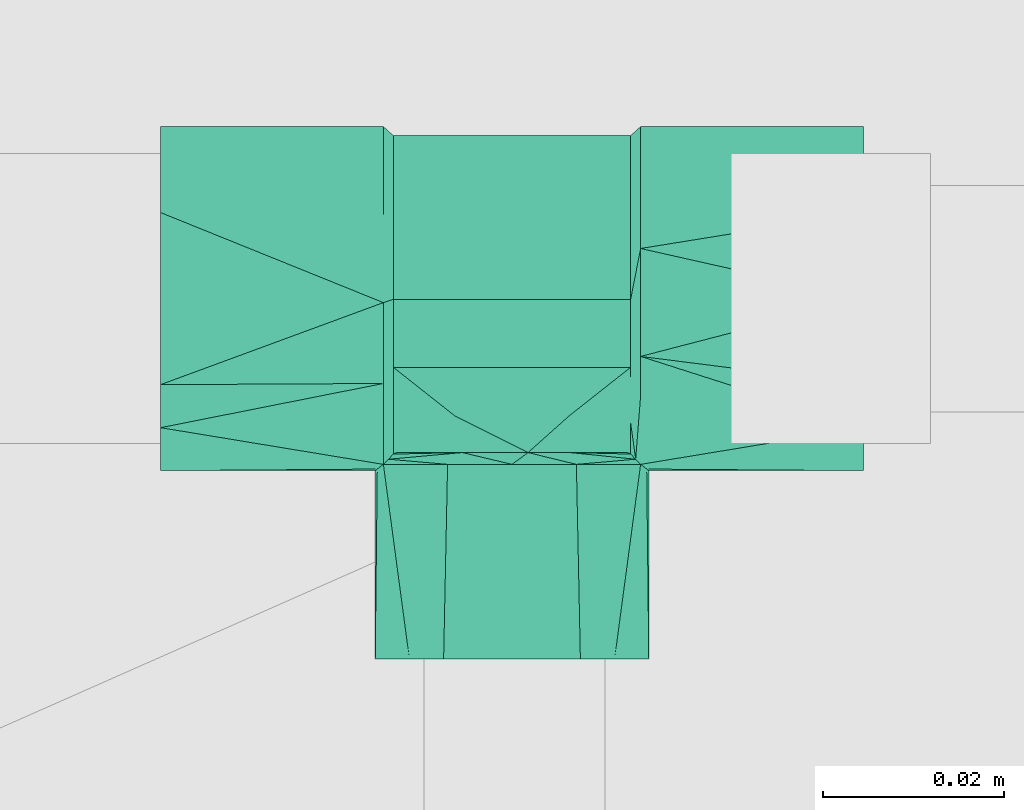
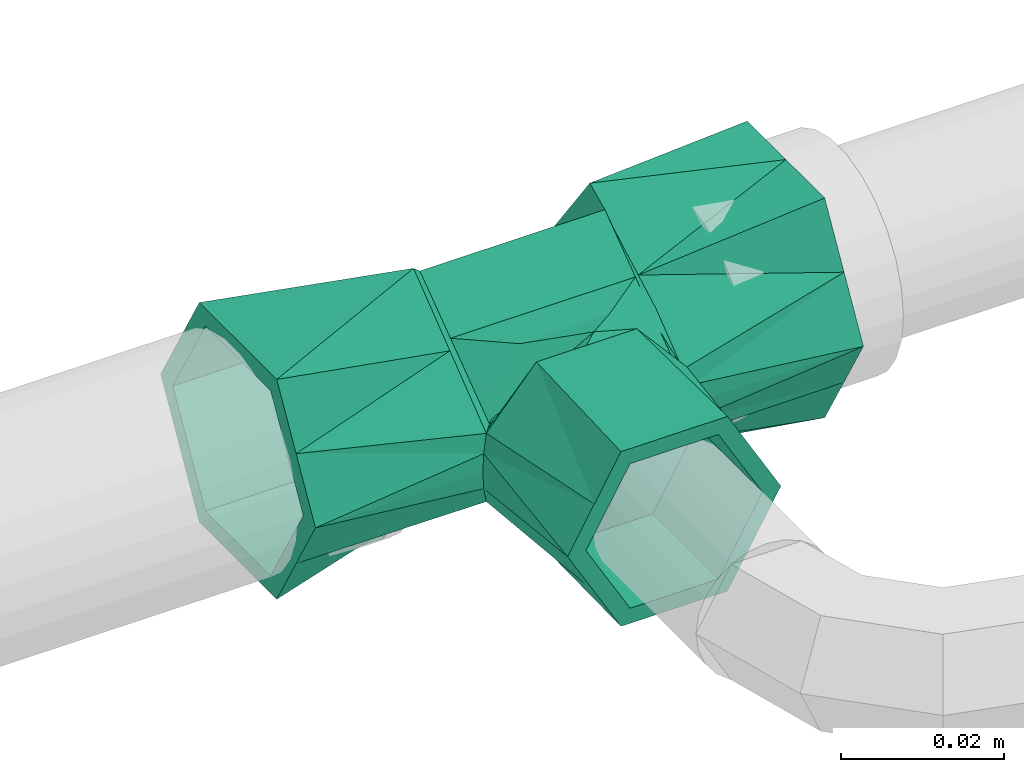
# One storey, part 120 of 166: 1 flow fitting.
"""IFC2X3 building model written with IfcOpenShell, lengths in metres."""

import ifcopenshell
import ifcopenshell.guid

model = None  # the IFC model being written
_history = None  # IfcOwnerHistory: only IFC2X3 demands one
_inside = {}  # id of a spatial element -> (the spatial element, [elements in it])
_under = {}  # id of a project, library or spatial element -> (it, [spatial elements below it])
_declared = {}  # id of a project -> (the project, [libraries it declares])
_typed = {}  # id of a type object -> (the type object, [elements of that type])
_made_of = {}  # id of a material, layer set ... -> (it, [elements and type objects made of it])


def new_model(schema):
    """Start an empty IFC model of exactly this schema.

    Asked for "IFC4X3", IfcOpenShell would pick the latest addendum, in which some entities
    have other attributes; the version numbers below select the first issue.
    IFC2X3 requires an IfcOwnerHistory on every rooted entity: one is made here for all.
    """
    global model, _history
    if schema == "IFC4X3":
        model = ifcopenshell.file(schema_version=(4, 3, 0, 0))
    else:
        model = ifcopenshell.file(schema=schema)
    _inside.clear()
    _under.clear()
    _declared.clear()
    _typed.clear()
    _made_of.clear()
    _history = None
    if model.schema == "IFC2X3":
        org = make("IfcOrganization", Name="unknown")
        user = make(
            "IfcPersonAndOrganization",
            ThePerson=make("IfcPerson", FamilyName="unknown"),
            TheOrganization=org,
        )
        app = make(
            "IfcApplication",
            ApplicationDeveloper=org,
            Version="unknown",
            ApplicationFullName="unknown",
            ApplicationIdentifier="unknown",
        )
        _history = make(
            "IfcOwnerHistory",
            OwningUser=user,
            OwningApplication=app,
            ChangeAction="ADDED",
            CreationDate=0,
        )
    return model


def make(cls, **values):
    """One entity of the class cls with the attributes given. An attribute that is None is left unset."""
    return model.create_entity(
        cls, **{name: value for name, value in values.items() if value is not None}
    )


def entity(cls, *values):
    """Any entity or typed value of the class cls, its attributes in the order of the schema. None: left unset."""
    e = model.create_entity(cls)
    for i, value in enumerate(values):
        if value is not None:
            e[i] = value
    return e


def rooted(cls, **values):
    """An entity with a GlobalId (a new one), such as an element, a storey or a relation."""
    return make(cls, GlobalId=ifcopenshell.guid.new(), OwnerHistory=_history, **values)


def si_unit(unit_type, name, prefix=None):
    """IfcSIUnit, for example si_unit("LENGTHUNIT", "METRE", prefix="MILLI")."""
    return make("IfcSIUnit", UnitType=unit_type, Prefix=prefix, Name=name)


def converted_unit(unit_type, name, factor, base, dimensions=None, offset=None):
    """IfcConversionBasedUnit, such as the inch: factor (a typed value) times the base unit."""
    return make(
        "IfcConversionBasedUnit"
        if offset is None
        else "IfcConversionBasedUnitWithOffset",
        ConversionOffset=offset,
        Dimensions=None
        if dimensions is None
        else entity("IfcDimensionalExponents", *dimensions),
        UnitType=unit_type,
        Name=name,
        ConversionFactor=make(
            "IfcMeasureWithUnit", ValueComponent=factor, UnitComponent=base
        ),
    )


def assignment(units):
    """IfcUnitAssignment: the units of a project."""
    return None if units is None else make("IfcUnitAssignment", Units=units)


def point(xyz):
    """IfcCartesianPoint."""
    return None if xyz is None else make("IfcCartesianPoint", Coordinates=xyz)


def direction(xyz):
    """IfcDirection."""
    return None if xyz is None else make("IfcDirection", DirectionRatios=xyz)


def frame(location, z_axis=None, x_axis=None):
    """IfcAxis2Placement3D, a coordinate frame: its origin and axes. An axis left out is left unset."""
    return make(
        "IfcAxis2Placement3D",
        Location=point(location),
        Axis=direction(z_axis),
        RefDirection=direction(x_axis),
    )


def origin():
    """The frame at (0, 0, 0) with its axes left unset."""
    return frame((0.0, 0.0, 0.0))


def place(relative_to, where):
    """IfcLocalPlacement: puts the frame where relative to a parent placement (None: the world)."""
    return make(
        "IfcLocalPlacement", PlacementRelTo=relative_to, RelativePlacement=where
    )


def context(
    kind, dimensions, precision=None, world=None, true_north=None, identifier=None
):
    """IfcGeometricRepresentationContext, for example the 3D "Model" context."""
    return make(
        "IfcGeometricRepresentationContext",
        ContextIdentifier=identifier,
        ContextType=kind,
        CoordinateSpaceDimension=dimensions,
        Precision=precision,
        WorldCoordinateSystem=world,
        TrueNorth=true_north,
    )


def subcontext(parent, identifier, kind, view, scale=None):
    """IfcGeometricRepresentationSubContext, for example "Body" below "Model"."""
    return make(
        "IfcGeometricRepresentationSubContext",
        ContextIdentifier=identifier,
        ContextType=kind,
        ParentContext=parent,
        TargetScale=scale,
        TargetView=view,
    )


def project(units=None, contexts=None):
    """IfcProject with its units and contexts."""
    return rooted(
        "IfcProject",
        Name="project",
        RepresentationContexts=contexts,
        UnitsInContext=assignment(units),
    )


def spatial(cls, under=None, at=None, **own):
    """A site, building, storey or space (cls), placed at a placement, below another one or the project."""
    s = rooted(cls, ObjectPlacement=at, **own)
    if under is not None:
        _under.setdefault(under.id(), (under, []))[1].append(s)
    return s


def faces_of(points, faces, orient=None, outer=None):
    """IfcFace entities. A face is a list of loops; a loop is a list of indices into points, from 0.

    orient and outer hold one flag for each loop. By default every Orientation is true, the
    first loop of a face is its IfcFaceOuterBound and the others are IfcFaceBound.
    """
    made = []
    for i, loops in enumerate(faces):
        bounds = []
        for j, loop in enumerate(loops):
            is_outer = j == 0 if outer is None else outer[i][j]
            bounds.append(
                make(
                    "IfcFaceOuterBound" if is_outer else "IfcFaceBound",
                    Bound=make("IfcPolyLoop", Polygon=[points[k] for k in loop]),
                    Orientation=True if orient is None else orient[i][j],
                )
            )
        made.append(make("IfcFace", Bounds=bounds))
    return made


def faceted_brep(points, faces, orient=None, outer=None, voids=None):
    """IfcFacetedBrep: a solid bounded by flat faces; with voids (closed shells), ...WithVoids."""
    shared = [point(p) for p in points]
    hull = make("IfcClosedShell", CfsFaces=faces_of(shared, faces, orient, outer))
    if voids is None:
        return make("IfcFacetedBrep", Outer=hull)
    return make(
        "IfcFacetedBrepWithVoids",
        Outer=hull,
        Voids=[
            make(cls, CfsFaces=faces_of(shared, fs, o, b)) for cls, fs, o, b in voids
        ],
    )


def shape(context_of_items, identifier, shape_type, items):
    """IfcShapeRepresentation: the items that make up one representation, for example the "Body"."""
    return make(
        "IfcShapeRepresentation",
        ContextOfItems=context_of_items,
        RepresentationIdentifier=identifier,
        RepresentationType=shape_type,
        Items=items,
    )


def source(mapping_origin, context_of_items, identifier, shape_type, items):
    """IfcRepresentationMap: a shape defined once, which mapped items show again and again."""
    return make(
        "IfcRepresentationMap",
        MappingOrigin=mapping_origin,
        MappedRepresentation=shape(context_of_items, identifier, shape_type, items),
    )


def transform(
    local_origin,
    x_axis=None,
    y_axis=None,
    z_axis=None,
    scale=None,
    scale2=None,
    scale3=None,
    uniform=True,
):
    """IfcCartesianTransformationOperator3D, or its non-uniform kind. x_axis, y_axis, z_axis: its Axis1, 2, 3."""
    if uniform:
        return make(
            "IfcCartesianTransformationOperator3D",
            Axis1=direction(x_axis),
            Axis2=direction(y_axis),
            LocalOrigin=point(local_origin),
            Scale=scale,
            Axis3=direction(z_axis),
        )
    return make(
        "IfcCartesianTransformationOperator3DnonUniform",
        Axis1=direction(x_axis),
        Axis2=direction(y_axis),
        LocalOrigin=point(local_origin),
        Scale=scale,
        Axis3=direction(z_axis),
        Scale2=scale2,
        Scale3=scale3,
    )


def mapped(mapping_source, mapping_target):
    """IfcMappedItem: shows the shape of a source again, moved by a transform."""
    return make(
        "IfcMappedItem", MappingSource=mapping_source, MappingTarget=mapping_target
    )


def material(Name=None, Category=None):
    """IfcMaterial."""
    return make("IfcMaterial", Name=Name, Category=Category)


def made_of(thing, what):
    """Note that an element or type object is made of a material, layer set ...; save() writes the relation."""
    if what is not None:
        _made_of.setdefault(what.id(), (what, []))[1].append(thing)
    return thing


def type_object(cls, material=None, **own):
    """A type object (cls), such as IfcWallType, which elements share."""
    return made_of(rooted(cls, **own), material)


def type_shapes(of_type, sources):
    """Give a type object the sources (RepresentationMaps) that its elements show as mapped items."""
    of_type.RepresentationMaps = sources


def element(
    cls,
    number,
    at=None,
    inside=None,
    cuts=None,
    type_object=None,
    material=None,
    context=None,
    identifier="Body",
    shape_type=None,
    held_by="IfcProductDefinitionShape",
    body=None,
    shapes=None,
    **own,
):
    """One element of the class cls, such as IfcWall. Its Tag is "e" and its number.

    at: its placement. inside: the storey or other place that contains it. cuts: it is an
    opening in that element (IfcRelVoidsElement). A single representation is given by context,
    identifier, shape_type and body (its items); several are given by shapes. held_by: the class
    of the entity that holds the representations. save() writes the other relations.
    """
    e = rooted(cls, Tag="e%d" % number, ObjectPlacement=at, **own)
    if body is not None:
        shapes = [shape(context, identifier, shape_type, body)]
    if shapes is not None:
        e.Representation = make(held_by, Representations=shapes)
    if inside is not None:
        _inside.setdefault(inside.id(), (inside, []))[1].append(e)
    if cuts is not None:
        rooted(
            "IfcRelVoidsElement", RelatingBuildingElement=cuts, RelatedOpeningElement=e
        )
    if type_object is not None:
        _typed.setdefault(type_object.id(), (type_object, []))[1].append(e)
    return made_of(e, material)


def aggregate(whole, parts):
    """IfcRelAggregates: a whole, such as a stair, and the parts it consists of."""
    return rooted("IfcRelAggregates", RelatingObject=whole, RelatedObjects=parts)


def save(model, path):
    """Write the relations noted so far, then the file.

    IfcRelAggregates (storeys below a building ...), IfcRelContainedInSpatialStructure (elements
    in a storey), IfcRelDefinesByType, IfcRelAssociatesMaterial and IfcRelDeclares: one each for
    every whole, place, type object, material and project.
    """
    for whole, parts in _under.values():
        aggregate(whole, parts)
    for where, things in _inside.values():
        rooted(
            "IfcRelContainedInSpatialStructure",
            RelatedElements=things,
            RelatingStructure=where,
        )
    for kind, things in _typed.values():
        rooted("IfcRelDefinesByType", RelatedObjects=things, RelatingType=kind)
    for what, things in _made_of.values():
        rooted("IfcRelAssociatesMaterial", RelatedObjects=things, RelatingMaterial=what)
    for by, libraries in _declared.values():
        rooted("IfcRelDeclares", RelatingContext=by, RelatedDefinitions=libraries)
    model.write(path)


model = new_model("IFC2X3")

# Units and contexts
model_context = context("Model", 3, precision=1e-05, world=origin(), true_north=direction((6.123233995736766e-17, 1.0)))
body_context = subcontext(model_context, "Body", "Model", "MODEL_VIEW")
ifc_project = project(units=[si_unit("LENGTHUNIT", "METRE"), converted_unit("PLANEANGLEUNIT", "DEGREE", entity("IfcPlaneAngleMeasure", 0.017453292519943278), si_unit("PLANEANGLEUNIT", "RADIAN"), dimensions=[0, 0, 0, 0, 0, 0, 0]), si_unit("AREAUNIT", "SQUARE_METRE")], contexts=[model_context])

# Site, building, storey
site_placement = place(None, origin())
site = spatial("IfcSite", under=ifc_project, at=site_placement, Name="Default", CompositionType="ELEMENT")
building_placement = place(site_placement, origin())
building = spatial("IfcBuilding", under=site, at=building_placement, Name="CASA DE ACOLHIDA PARA IDOSOS", CompositionType="ELEMENT")
storey_placement = place(building_placement, frame((0.0, 0.0, -1.7499999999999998)))
storey = spatial("IfcBuildingStorey", under=building, at=storey_placement, Name="IMPLANTAÇÃO DRENAGEM", CompositionType="ELEMENT", Elevation=-1.7499999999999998)

# Flow fitting
ifc_material = material(Name="PVC Branco")
pipe_fitting_type = type_object("IfcPipeFittingType", Name="AF_Roscavel_Te_Reducao:Standard", PredefinedType="NOTDEFINED", material=ifc_material)
shared_shape = source(origin(), body_context, "Body", "Brep", [
    faceted_brep([(-0.014199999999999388, 0.01563344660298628, -0.004544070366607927), (-0.014199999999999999, 0.018999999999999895, 0.0), (-0.0131, 0.01799999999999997, 0.0), (-0.014199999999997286, -0.01071379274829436, -0.009268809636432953), (-0.013099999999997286, -0.00862473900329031, -0.011707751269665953), (-0.01309999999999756, -0.012376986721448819, -0.008943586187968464), (-0.013099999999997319, -0.013728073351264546, -0.00794828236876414), (-0.01419999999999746, -0.0004246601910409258, -0.01490965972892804), (-0.01309999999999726, -0.004354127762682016, -0.014853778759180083), (-0.01419999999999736, -0.006383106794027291, -0.011643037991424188), (-0.013099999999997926, 0.004437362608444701, -0.013499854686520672), (-0.014199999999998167, 0.008900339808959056, -0.013632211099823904), (-0.013099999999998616, 0.008958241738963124, -0.008999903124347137), (-0.013099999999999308, 0.013479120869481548, -0.004499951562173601), (-0.01419999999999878, 0.01226689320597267, -0.009088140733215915), (-0.013653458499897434, -0.01773405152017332, -0.005279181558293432), (-0.013099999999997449, -0.014771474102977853, -0.007179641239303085), (-0.013099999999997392, -0.015968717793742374, -0.006297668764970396), (-0.013099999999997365, -0.016567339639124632, -0.005856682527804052), (-0.013099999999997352, -0.016866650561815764, -0.005636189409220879), (-0.013099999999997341, -0.017016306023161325, -0.005525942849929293), (-0.01309999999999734, -0.017165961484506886, -0.005415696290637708), (-0.014199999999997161, -0.018300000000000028, -0.005109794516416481), (-0.014199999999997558, 0.005533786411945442, -0.018176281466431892), (-0.013099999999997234, -8.35165220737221e-05, -0.017999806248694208), (-0.013099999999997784, -0.007588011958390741, -0.012471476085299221), (-0.013100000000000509, -0.0001668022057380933, 0.014208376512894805), (-0.014200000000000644, -0.004906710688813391, 0.015523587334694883), (-0.01310000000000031, -0.005833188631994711, 0.011277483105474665), (-0.014200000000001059, 0.014139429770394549, 0.0047487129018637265), (-0.013100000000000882, 0.011749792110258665, 0.00856963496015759), (-0.013100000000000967, 0.014874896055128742, 0.004284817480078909), (-0.01420000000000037, -0.009371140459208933, 0.012052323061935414), (-0.014200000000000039, -0.014747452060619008, 0.007872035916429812), (-0.013100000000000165, -0.009867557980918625, 0.009190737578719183), (-0.014200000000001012, 0.009278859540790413, 0.00949742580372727), (-0.014200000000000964, 0.004418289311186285, 0.014246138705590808), (-0.01310000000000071, 0.0054995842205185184, 0.01713926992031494), (-0.013100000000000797, 0.008624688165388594, 0.012854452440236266), (-0.013653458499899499, -0.017734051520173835, 0.005279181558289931), (-0.014200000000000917, -0.0004422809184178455, 0.018994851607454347), (-0.014199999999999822, -0.01830000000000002, 0.005109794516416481), (-0.013099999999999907, -0.01716596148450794, 0.0054156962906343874), (-0.013099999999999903, -0.01700710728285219, 0.005497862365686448), (-0.013099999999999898, -0.016848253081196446, 0.0055800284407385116), (-0.013099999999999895, -0.016530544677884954, 0.0057443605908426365), (-0.01309999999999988, -0.015895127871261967, 0.006073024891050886), (-0.01309999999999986, -0.014624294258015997, 0.006730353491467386), (-0.013099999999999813, -0.012082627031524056, 0.008045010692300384), (-0.013099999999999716, 0.010989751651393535, 0.009611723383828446), (-0.013099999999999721, -0.006999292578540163, 0.010674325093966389), (0.00953576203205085, -0.014962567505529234, 0.009221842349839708), (0.01113423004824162, -0.01598128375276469, 0.007568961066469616), (0.013100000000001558, -0.014624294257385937, 0.006730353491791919), (0.013100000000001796, -0.006999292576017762, 0.010674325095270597), (0.013100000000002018, -0.005833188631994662, 0.011277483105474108), (0.013100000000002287, -0.00016680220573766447, 0.01420837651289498), (0.013100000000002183, 0.005499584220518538, 0.017139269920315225), (0.0127326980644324, -0.017000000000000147, 0.005916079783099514), (0.012919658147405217, -0.017084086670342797, 0.005668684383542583), (0.01310000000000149, -0.01684825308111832, 0.0055800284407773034), (0.013100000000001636, -0.012082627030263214, 0.00804501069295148), (0.006338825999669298, -0.01292513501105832, 0.012527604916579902), (0.007625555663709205, -0.013745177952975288, 0.011197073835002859), (0.008912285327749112, -0.014565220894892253, 0.009866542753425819), (-0.011133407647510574, -0.015980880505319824, 0.007569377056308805), (-0.01082226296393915, -0.015782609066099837, 0.007891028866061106), (-0.009534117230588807, -0.014961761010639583, 0.009222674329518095), (-0.008911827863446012, -0.014565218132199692, 0.00986597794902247), (-0.006335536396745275, -0.0129235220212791, 0.012529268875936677), (-0.012977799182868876, -0.017110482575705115, 0.005587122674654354), (-0.012919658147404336, -0.017084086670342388, 0.005668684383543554), (0.013100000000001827, -0.00986755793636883, 0.00919073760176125), (-0.01273269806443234, -0.017000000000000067, 0.005916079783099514), (-0.011933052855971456, -0.016490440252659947, 0.00674272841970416), (0.0131000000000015, -0.01653054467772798, 0.005744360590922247), (0.011933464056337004, -0.016490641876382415, 0.006742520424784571), (0.013100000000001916, 0.008624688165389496, 0.012854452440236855), (0.013100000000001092, 0.011749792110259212, 0.00856963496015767), (0.013100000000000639, 0.014874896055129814, 0.0042848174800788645), (0.0131, 0.017999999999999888, 0.0), (0.012977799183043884, -0.01711048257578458, 0.005587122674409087), (0.01310000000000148, -0.017165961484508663, 0.005415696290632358), (0.013100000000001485, -0.017007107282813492, 0.005497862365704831), (0.01310000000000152, -0.0158951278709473, 0.006073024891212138), (0.01309999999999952, 0.012176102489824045, -0.005796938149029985), (0.013099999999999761, 0.008958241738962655, -0.008999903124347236), (0.013099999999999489, 0.006352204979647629, -0.011593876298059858), (0.013099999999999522, -8.351652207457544e-05, -0.01799980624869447), (-0.01291965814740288, -0.017084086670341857, -0.005668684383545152), (-0.012977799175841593, -0.017110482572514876, -0.005587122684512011), (0.013099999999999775, -0.007588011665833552, -0.012471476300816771), (0.0063388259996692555, -0.012925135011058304, -0.012527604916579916), (-0.006335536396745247, -0.01292352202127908, -0.012529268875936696), (0.013099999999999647, -0.005186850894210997, -0.014240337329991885), (-0.01273269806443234, -0.017000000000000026, -0.005916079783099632), (-0.011933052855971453, -0.01649044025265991, -0.006742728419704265), (0.009535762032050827, -0.014962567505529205, -0.009221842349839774), (0.013099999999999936, -0.012376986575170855, -0.008943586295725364), (0.013100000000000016, -0.014771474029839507, -0.007179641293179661), (0.013100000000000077, -0.016567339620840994, -0.005856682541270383), (0.0127326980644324, -0.017000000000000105, -0.005916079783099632), (0.011933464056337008, -0.01649064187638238, -0.006742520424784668), (0.008912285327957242, -0.01456522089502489, -0.009866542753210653), (0.013099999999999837, -0.010290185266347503, -0.010480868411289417), (0.012977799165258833, -0.017110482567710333, -0.005587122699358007), (0.012919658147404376, -0.017084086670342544, -0.005668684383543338), (0.013100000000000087, -0.016866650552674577, -0.005636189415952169), (0.01310000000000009, -0.017016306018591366, -0.005525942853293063), (0.013100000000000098, -0.01716596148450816, -0.0054156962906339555), (0.011134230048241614, -0.015981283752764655, -0.007568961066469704), (0.010822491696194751, -0.01578261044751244, -0.00789131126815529), (-0.007623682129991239, -0.01374437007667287, -0.011197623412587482), (-0.008911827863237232, -0.01456521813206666, -0.00986597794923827), (-0.009534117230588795, -0.014961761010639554, -0.009222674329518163), (-0.011133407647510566, -0.01598088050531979, -0.007569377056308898), (0.013100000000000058, -0.01596871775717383, -0.006297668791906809), (0.014200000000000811, 0.01226689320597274, 0.009088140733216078), (0.014200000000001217, 0.008900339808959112, 0.013632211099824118), (0.014200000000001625, 0.005533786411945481, 0.018176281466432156), (0.014200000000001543, -0.00312758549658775, 0.013427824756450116), (0.014200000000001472, -0.010713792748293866, 0.009268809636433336), (0.013653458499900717, -0.017734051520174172, 0.005279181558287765), (0.014200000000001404, -0.01829999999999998, 0.005109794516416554), (0.014199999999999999, 0.019, 0.0), (0.014200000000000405, 0.01563344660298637, 0.004544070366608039), (0.014200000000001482, -0.0063831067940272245, 0.011643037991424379), (0.014199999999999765, -0.00044228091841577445, -0.018994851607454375), (0.014199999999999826, -0.004906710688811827, -0.015523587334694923), (0.01419999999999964, 0.009278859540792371, -0.009497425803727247), (0.014199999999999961, -0.0147474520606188, -0.007872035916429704), (0.01420000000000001, -0.018299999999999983, -0.005109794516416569), (0.013653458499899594, -0.017734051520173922, -0.00527918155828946), (0.014199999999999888, -0.009371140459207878, -0.01205232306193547), (0.014199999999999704, 0.0044182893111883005, -0.01424613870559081), (0.014199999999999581, 0.014139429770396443, -0.004748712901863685), (-0.0388000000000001, -0.009500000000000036, -0.016454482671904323), (-0.0388000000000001, -0.016, 0.0), (-0.03879999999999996, -0.011857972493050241, -0.007174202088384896), (-0.0388000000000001, -0.014250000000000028, -0.008227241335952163), (-0.0388000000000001, -0.008000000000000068, -0.01385640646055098), (-0.0388000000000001, 0.0, -0.013856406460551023), (-0.0388000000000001, 0.007999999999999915, -0.013856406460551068), (-0.0388000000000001, 0.0, -0.01645448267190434), (-0.0388000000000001, -0.01900000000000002, 0.0), (-0.0388000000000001, -0.012000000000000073, 0.006928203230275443), (-0.0388000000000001, -0.008000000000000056, 0.013856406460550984), (-0.0388000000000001, -0.014249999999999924, 0.008227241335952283), (-0.0388000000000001, -0.00949999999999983, 0.01645448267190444), (-0.0388000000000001, 0.0, 0.013856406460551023), (-0.0388000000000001, 0.007999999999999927, 0.01385640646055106), (-0.0388000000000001, 0.0, 0.01645448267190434), (-0.0388000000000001, 0.009500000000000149, 0.016454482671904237), (-0.0388000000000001, 0.01549204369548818, 0.006075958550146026), (-0.0388000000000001, 0.01899999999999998, 0.0), (-0.03879999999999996, 0.01185797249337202, 0.007174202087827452), (-0.0388000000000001, 0.016, 0.0), (-0.0388000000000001, 0.014249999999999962, -0.0082272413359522), (-0.0388000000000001, 0.009499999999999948, -0.016454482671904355), (-0.0388000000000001, 0.011999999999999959, -0.006928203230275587), (-0.014872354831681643, -0.018819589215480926, 0.0026120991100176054), (-0.015099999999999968, -0.01900000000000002, 0.0), (0.0388000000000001, -0.019, 0.0), (0.014872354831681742, -0.018819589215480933, 0.0026120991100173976), (0.015100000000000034, -0.019, 0.0), (0.0388000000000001, 0.014249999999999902, 0.008227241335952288), (0.0388000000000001, 0.019, 0.0), (-0.014872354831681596, -0.018819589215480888, -0.0026120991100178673), (0.014872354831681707, -0.018819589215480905, -0.0026120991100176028), (0.0388000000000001, 0.015492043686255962, -0.006075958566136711), (0.0388000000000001, 0.009500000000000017, -0.016454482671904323), (0.0388000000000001, 0.015999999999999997, 0.0), (0.038800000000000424, 0.011857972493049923, -0.007174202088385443), (0.0388000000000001, 0.008000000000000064, -0.01385640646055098), (0.0388000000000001, 0.0, -0.013856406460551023), (0.0388000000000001, -0.007999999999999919, -0.013856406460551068), (0.0388000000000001, 0.0, -0.01645448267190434), (0.0388000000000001, 0.012000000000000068, 0.006928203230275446), (0.0388000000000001, 0.00800000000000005, 0.013856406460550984), (0.0388000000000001, 0.00949999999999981, 0.01645448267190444), (0.0388000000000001, 0.0, 0.013856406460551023), (0.0388000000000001, -0.00799999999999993, 0.01385640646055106), (0.0388000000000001, 0.0, 0.01645448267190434), (0.0388000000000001, -0.00950000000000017, 0.016454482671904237), (0.0388000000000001, -0.014250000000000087, 0.008227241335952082), (0.038800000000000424, -0.01185797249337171, 0.007174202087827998), (0.0388000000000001, -0.016000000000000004, 0.0), (0.0388000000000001, -0.014249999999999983, -0.008227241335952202), (0.0388000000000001, -0.009499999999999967, -0.016454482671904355), (0.0388000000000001, -0.011999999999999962, -0.006928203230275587), (-0.02269999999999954, -0.016, 0.0), (-0.02269999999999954, -0.01185797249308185, 0.0071742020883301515), (-0.02269999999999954, -0.008000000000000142, 0.013856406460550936), (-0.02269999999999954, 0.0, 0.013856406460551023), (-0.02269999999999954, 0.007999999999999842, 0.01385640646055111), (-0.02269999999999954, 0.01199999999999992, 0.006928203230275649), (-0.02269999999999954, 0.016, 0.0), (-0.02269999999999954, 0.011857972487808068, -0.007174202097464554), (-0.02269999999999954, 0.008000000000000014, -0.01385640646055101), (-0.022699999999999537, 0.0, -0.01385640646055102), (-0.02269999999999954, -0.007999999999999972, -0.013856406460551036), (-0.02269999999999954, -0.011999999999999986, -0.006928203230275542), (0.022700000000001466, -0.016000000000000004, 0.0), (0.022700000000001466, -0.011999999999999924, 0.006928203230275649), (0.022700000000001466, -0.007999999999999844, 0.01385640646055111), (0.022700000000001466, 0.0, 0.013856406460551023), (0.022700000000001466, 0.00800000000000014, 0.013856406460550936), (0.022700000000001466, 0.011857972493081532, 0.007174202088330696), (0.022700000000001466, 0.015999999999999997, 0.0), (0.022700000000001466, 0.011999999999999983, -0.006928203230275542), (0.022700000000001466, 0.00799999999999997, -0.013856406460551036), (0.022700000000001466, 0.0, -0.013856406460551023), (0.022700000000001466, -0.008000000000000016, -0.01385640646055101), (0.022700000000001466, -0.011857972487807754, -0.007174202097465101), (0.01250000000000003, -0.02369999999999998, 0.0), (0.006250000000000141, -0.023699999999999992, 0.010825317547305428), (-0.006249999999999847, -0.02370000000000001, 0.010825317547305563), (-0.012499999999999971, -0.023700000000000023, 0.0), (-0.006249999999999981, -0.02370000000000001, -0.010825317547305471), (0.006250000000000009, -0.023699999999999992, -0.01082531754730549), (0.012500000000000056, -0.03979999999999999, 0.0), (0.006250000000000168, -0.039799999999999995, 0.010825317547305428), (-0.00624999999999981, -0.039800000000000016, 0.01082531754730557), (-0.012499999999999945, -0.03980000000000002, 0.0), (-0.006249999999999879, -0.039800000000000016, -0.010825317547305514), (0.006250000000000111, -0.039799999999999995, -0.010825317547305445), (-0.0017679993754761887, -0.01700000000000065, -0.013928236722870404), (-0.006407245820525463, -0.017000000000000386, -0.010538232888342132), (0.009386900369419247, -0.01700000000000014, -0.007764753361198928), (0.006041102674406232, -0.017000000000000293, -0.009613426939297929), (0.005482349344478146, -0.017000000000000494, -0.009922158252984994), (0.0017662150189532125, -0.016999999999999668, 0.013928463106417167), (0.006407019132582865, -0.016999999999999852, 0.010537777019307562), (-0.009386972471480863, -0.01699999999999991, 0.007764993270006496), (-0.00604124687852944, -0.016999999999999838, 0.009613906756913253), (-0.005483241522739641, -0.01699999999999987, 0.009922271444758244), (1.2383427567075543e-06, -0.018300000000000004, 0.013321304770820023), (0.007111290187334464, -0.018299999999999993, 0.013320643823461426), (-0.007108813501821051, -0.018300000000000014, 0.013321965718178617), (1.2383427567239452e-06, -0.01830000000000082, -0.013321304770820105), (-0.007108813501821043, -0.018300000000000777, -0.013321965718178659), (0.007111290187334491, -0.018300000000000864, -0.01332064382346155), (0.007550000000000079, -0.039799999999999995, -0.013076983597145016), (0.011325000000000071, -0.03979999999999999, -0.00653849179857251), (0.0, -0.0398, -0.013076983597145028), (0.015100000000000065, -0.03979999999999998, 0.0), (0.011324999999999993, -0.03979999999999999, 0.006538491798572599), (0.007549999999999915, -0.039799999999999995, 0.01307698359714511), (0.0, -0.0398, 0.013076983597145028), (-0.007550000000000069, -0.039800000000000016, 0.013076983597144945), (-0.011325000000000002, -0.03980000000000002, 0.006538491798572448), (-0.015099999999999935, -0.03980000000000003, 0.0), (-0.011324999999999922, -0.03980000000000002, -0.006538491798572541), (-0.007549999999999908, -0.039800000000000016, -0.01307698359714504)], [[[0, 1, 2]], [[3, 4, 5, 6]], [[7, 8, 9]], [[10, 11, 12]], [[13, 14, 0]], [[15, 6, 16, 17, 18, 19, 20, 21]], [[4, 3, 9]], [[3, 6, 15]], [[0, 2, 13]], [[15, 22, 3]], [[23, 10, 24]], [[12, 14, 13]], [[8, 7, 24]], [[9, 8, 25, 4]], [[11, 10, 23]], [[11, 14, 12]], [[7, 23, 24]], [[26, 27, 28]], [[29, 30, 31]], [[31, 1, 29]], [[31, 2, 1]], [[27, 32, 28]], [[33, 34, 32]], [[29, 35, 30]], [[36, 37, 38]], [[34, 33, 39]], [[40, 37, 36]], [[33, 41, 39]], [[39, 42, 43, 44, 45, 46, 47, 48, 34]], [[35, 38, 49, 30]], [[26, 40, 27]], [[26, 37, 40]], [[36, 38, 35]], [[32, 34, 50, 28]], [[51, 52, 53]], [[50, 54, 55, 56, 57, 37, 26, 28]], [[58, 59, 60]], [[61, 62, 63, 64, 51]], [[47, 65, 66, 67]], [[48, 67, 68, 69]], [[69, 50, 34, 48]], [[70, 71, 44, 43, 42]], [[62, 61, 72, 54]], [[45, 73, 74]], [[50, 69, 54]], [[58, 75, 76]], [[73, 44, 71]], [[2, 31, 30, 49, 38, 37, 57, 77, 78, 79, 80]], [[45, 44, 73]], [[62, 54, 69]], [[60, 75, 58]], [[67, 48, 47]], [[59, 81, 82, 83, 60]], [[84, 76, 75]], [[65, 47, 46]], [[61, 51, 53]], [[46, 74, 65]], [[53, 52, 84]], [[45, 74, 46]], [[84, 52, 76]], [[12, 13, 2, 80, 85, 86, 87, 88, 24, 10]], [[89, 90, 21, 20, 19]], [[91, 92, 93]], [[93, 25, 91]], [[24, 88, 94, 91, 25, 8]], [[95, 18, 96]], [[17, 96, 18]], [[97, 98, 99]], [[100, 101, 102]], [[98, 97, 103, 92]], [[92, 91, 104, 98]], [[105, 106, 107, 108, 109]], [[99, 110, 111, 97]], [[5, 93, 112, 113, 114]], [[114, 115, 16]], [[95, 89, 19]], [[19, 18, 95]], [[93, 5, 4, 25]], [[101, 107, 106]], [[100, 107, 101]], [[110, 99, 116]], [[114, 16, 6, 5]], [[116, 102, 110]], [[16, 115, 17]], [[100, 102, 116]], [[17, 115, 96]], [[117, 77, 118]], [[56, 119, 57]], [[57, 118, 77]], [[119, 118, 57]], [[119, 56, 120]], [[121, 55, 54, 72]], [[122, 72, 61, 53, 84, 75, 60, 83, 82]], [[121, 122, 123]], [[124, 80, 79]], [[122, 121, 72]], [[125, 79, 78]], [[78, 117, 125]], [[56, 55, 120]], [[55, 121, 126, 120]], [[124, 79, 125]], [[77, 117, 78]], [[127, 128, 88]], [[129, 87, 86, 85]], [[130, 131, 132]], [[130, 104, 133]], [[88, 134, 127]], [[80, 135, 85]], [[132, 109, 108, 107, 100, 116, 99, 98, 104]], [[133, 104, 91, 94]], [[134, 88, 87]], [[94, 128, 133]], [[87, 129, 134]], [[104, 130, 132]], [[88, 128, 94]], [[135, 80, 124]], [[135, 129, 85]], [[136, 137, 138]], [[137, 136, 139]], [[136, 138, 140]], [[136, 140, 141]], [[136, 141, 142]], [[142, 143, 136]], [[137, 139, 144]], [[144, 145, 137]], [[144, 146, 145]], [[146, 144, 147]], [[146, 147, 148]], [[148, 149, 146]], [[148, 150, 149]], [[150, 148, 151]], [[150, 151, 152]], [[150, 152, 153]], [[150, 153, 154]], [[154, 155, 150]], [[154, 156, 155]], [[156, 154, 157]], [[156, 157, 158]], [[158, 142, 159]], [[142, 158, 143]], [[158, 159, 156]], [[35, 153, 152]], [[40, 152, 151, 148]], [[153, 35, 29, 1]], [[147, 32, 148]], [[152, 40, 36, 35]], [[160, 144, 161]], [[162, 163, 164]], [[1, 154, 153]], [[165, 166, 124]], [[160, 41, 147]], [[144, 160, 147]], [[148, 32, 27, 40]], [[147, 41, 33, 32]], [[139, 9, 3, 22]], [[136, 9, 139]], [[167, 139, 22]], [[144, 167, 161]], [[168, 162, 164]], [[167, 144, 139]], [[143, 158, 23]], [[143, 9, 136]], [[157, 154, 1]], [[124, 166, 169]], [[157, 1, 0, 14]], [[158, 14, 11, 23]], [[143, 23, 7, 9]], [[14, 158, 157]], [[170, 171, 172]], [[171, 170, 169]], [[170, 172, 173]], [[170, 173, 174]], [[170, 174, 175]], [[175, 176, 170]], [[171, 169, 166]], [[166, 177, 171]], [[166, 178, 177]], [[178, 166, 165]], [[178, 165, 179]], [[179, 180, 178]], [[179, 181, 180]], [[181, 179, 182]], [[181, 182, 183]], [[181, 183, 184]], [[181, 184, 162]], [[162, 185, 181]], [[162, 186, 185]], [[186, 162, 187]], [[186, 187, 188]], [[188, 175, 189]], [[175, 188, 176]], [[188, 189, 186]], [[184, 126, 121, 123]], [[183, 126, 184]], [[163, 184, 123]], [[163, 162, 184]], [[182, 179, 119]], [[182, 126, 183]], [[165, 124, 125, 117]], [[179, 117, 118, 119]], [[182, 119, 120, 126]], [[117, 179, 165]], [[129, 169, 170]], [[127, 170, 176, 188]], [[169, 129, 135, 124]], [[187, 133, 188]], [[170, 127, 134, 129]], [[168, 131, 187]], [[162, 168, 187]], [[188, 133, 128, 127]], [[187, 131, 130, 133]], [[190, 191, 192, 193, 194, 195, 196, 197, 198, 199, 200, 201]], [[192, 191, 190, 137, 145, 146]], [[186, 202, 203, 204, 181, 185]], [[194, 193, 192, 146, 149, 150]], [[204, 205, 206, 178, 180, 181]], [[156, 196, 195, 194, 150, 155]], [[206, 207, 208, 171, 177, 178]], [[198, 197, 196, 156, 159, 142]], [[171, 208, 209, 210, 173, 172]], [[200, 199, 198, 142, 141, 140]], [[210, 211, 212, 175, 174, 173]], [[137, 190, 201, 200, 140, 138]], [[212, 213, 202, 186, 189, 175]], [[208, 207, 206, 205, 204, 203, 202, 213, 212, 211, 210, 209]], [[214, 215, 216, 217, 218, 219]], [[220, 221, 215, 214]], [[221, 222, 216, 215]], [[222, 223, 217, 216]], [[223, 224, 218, 217]], [[224, 225, 219, 218]], [[225, 220, 214, 219]], [[226, 227, 95, 96, 115, 114, 113, 112, 93]], [[92, 103, 97, 111, 110, 102, 101, 228, 229, 230, 226]], [[92, 226, 93]], [[231, 232, 58, 76, 52, 51, 64, 63, 62]], [[69, 68, 67, 66, 65, 74, 73, 233, 234, 235, 231]], [[69, 231, 62]], [[42, 39, 235]], [[235, 236, 231]], [[232, 82, 81, 59]], [[123, 122, 237]], [[236, 237, 231]], [[82, 232, 122]], [[237, 122, 232]], [[71, 235, 234, 233, 73]], [[235, 71, 70, 42]], [[39, 238, 235]], [[236, 235, 238]], [[39, 41, 238]], [[59, 58, 232]], [[237, 232, 231]], [[109, 132, 230]], [[230, 239, 226]], [[227, 21, 90, 89]], [[22, 15, 240]], [[239, 240, 226]], [[21, 227, 15]], [[240, 15, 227]], [[106, 230, 229, 228, 101]], [[230, 106, 105, 109]], [[132, 241, 230]], [[239, 230, 241]], [[132, 131, 241]], [[89, 95, 227]], [[240, 227, 226]], [[242, 220, 225]], [[220, 242, 243]], [[242, 225, 224]], [[224, 244, 242]], [[220, 243, 245]], [[221, 220, 245]], [[221, 245, 246]], [[221, 246, 247]], [[221, 247, 222]], [[222, 247, 248]], [[222, 248, 249]], [[222, 249, 250]], [[222, 250, 251]], [[251, 223, 222]], [[223, 251, 252]], [[223, 252, 253]], [[253, 224, 223]], [[224, 253, 244]], [[251, 160, 161]], [[249, 238, 250]], [[245, 164, 163]], [[238, 249, 248]], [[251, 250, 160]], [[250, 238, 41]], [[237, 248, 247]], [[245, 163, 246]], [[123, 246, 163]], [[237, 247, 246]], [[237, 246, 123]], [[160, 250, 41]], [[248, 237, 236, 238]], [[245, 168, 164]], [[242, 241, 243]], [[253, 240, 244]], [[251, 161, 167]], [[245, 243, 168]], [[243, 241, 131]], [[244, 240, 239, 241]], [[251, 167, 252]], [[22, 252, 167]], [[240, 253, 252]], [[240, 252, 22]], [[168, 243, 131]], [[242, 244, 241]]]),
])
type_shapes(pipe_fitting_type, [shared_shape])
flow_fitting_placement = place(storey_placement, frame((20.03905110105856, 22.85494207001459, -0.19999999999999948), z_axis=(0.0, 0.0, -1.0), x_axis=(-1.0, 0.0, 0.0)))
element("IfcFlowFitting", 1, at=flow_fitting_placement, inside=storey, type_object=pipe_fitting_type, material=ifc_material, Name="AF_Roscavel_Te_Reducao:Standard", ObjectType="AF_Roscavel_Te_Reducao:Standard", context=body_context, shape_type="MappedRepresentation", body=[
    mapped(shared_shape, transform((0.0, 0.0, 0.0), scale=1.0)),
])

save(model, "model.ifc")
